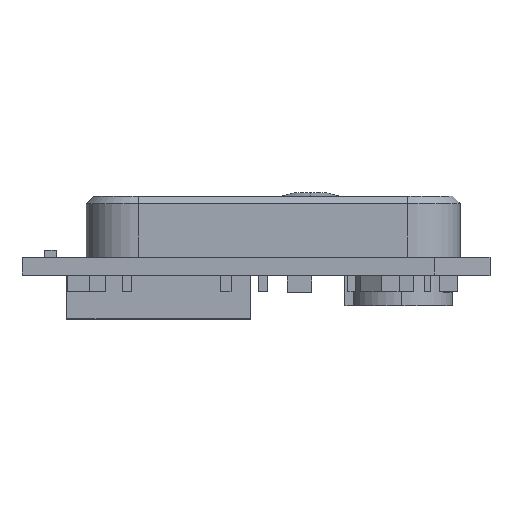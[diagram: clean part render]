
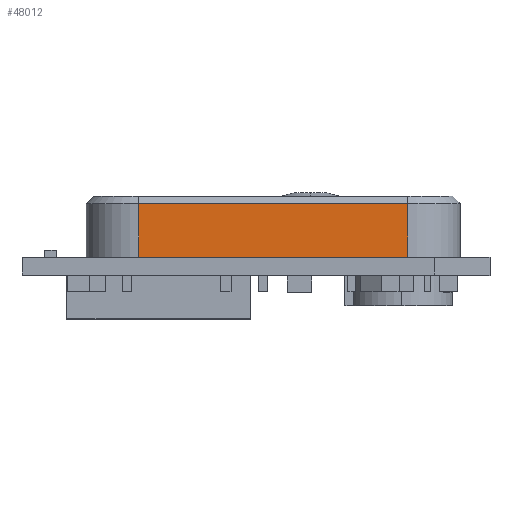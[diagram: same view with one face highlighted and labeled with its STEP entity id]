
A CAD part, top view. The second image highlights one B-rep face of the part: STEP entity #48012.
In plain terms, the highlighted planar face has unit normal (0, 0, 1).
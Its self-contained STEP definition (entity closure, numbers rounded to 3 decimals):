
#1761 = EDGE_CURVE ( 'NONE', #53485, #23304, #22930, .T. ) ;
#1854 = CARTESIAN_POINT ( 'NONE',  ( 10.15, 4.8, 11.75 ) ) ;
#7145 = VERTEX_POINT ( 'NONE', #24147 ) ;
#7311 = DIRECTION ( 'NONE',  ( 0., 0., -1. ) ) ;
#12696 = LINE ( 'NONE', #47879, #22702 ) ;
#15595 = VECTOR ( 'NONE', #45033, 1000. ) ;
#16571 = CARTESIAN_POINT ( 'NONE',  ( -7.85, 1.2, 11.75 ) ) ;
#16607 = CARTESIAN_POINT ( 'NONE',  ( 10.15, 5.3, 11.75 ) ) ;
#17382 = VERTEX_POINT ( 'NONE', #1854 ) ;
#20914 = DIRECTION ( 'NONE',  ( 0., -1., 0. ) ) ;
#22534 = DIRECTION ( 'NONE',  ( 0., -1., 0. ) ) ;
#22702 = VECTOR ( 'NONE', #22534, 1000. ) ;
#22930 = LINE ( 'NONE', #16571, #46979 ) ;
#23304 = VERTEX_POINT ( 'NONE', #49014 ) ;
#23595 = CARTESIAN_POINT ( 'NONE',  ( -7.85, 4.8, 11.75 ) ) ;
#24147 = CARTESIAN_POINT ( 'NONE',  ( -7.85, 4.8, 11.75 ) ) ;
#26000 = LINE ( 'NONE', #16607, #35912 ) ;
#27944 = EDGE_CURVE ( 'NONE', #17382, #23304, #26000, .T. ) ;
#28424 = CARTESIAN_POINT ( 'NONE',  ( -7.85, 5.3, 11.75 ) ) ;
#31656 = CARTESIAN_POINT ( 'NONE',  ( -7.85, 1.2, 11.75 ) ) ;
#33986 = AXIS2_PLACEMENT_3D ( 'NONE', #28424, #7311, #37129 ) ;
#34674 = ORIENTED_EDGE ( 'NONE', *, *, #27944, .F. ) ;
#35912 = VECTOR ( 'NONE', #20914, 1000. ) ;
#35965 = EDGE_LOOP ( 'NONE', ( #34674, #36035, #50942, #48470 ) ) ;
#36035 = ORIENTED_EDGE ( 'NONE', *, *, #49068, .T. ) ;
#37129 = DIRECTION ( 'NONE',  ( -1., 0., 0. ) ) ;
#41075 = PLANE ( 'NONE',  #33986 ) ;
#45033 = DIRECTION ( 'NONE',  ( -1., 0., 0. ) ) ;
#45727 = FACE_OUTER_BOUND ( 'NONE', #35965, .T. ) ;
#46979 = VECTOR ( 'NONE', #50718, 1000. ) ;
#47879 = CARTESIAN_POINT ( 'NONE',  ( -7.85, 5.3, 11.75 ) ) ;
#48012 = ADVANCED_FACE ( 'NONE', ( #45727 ), #41075, .F. ) ;
#48470 = ORIENTED_EDGE ( 'NONE', *, *, #1761, .T. ) ;
#49014 = CARTESIAN_POINT ( 'NONE',  ( 10.15, 1.2, 11.75 ) ) ;
#49068 = EDGE_CURVE ( 'NONE', #17382, #7145, #49639, .T. ) ;
#49639 = LINE ( 'NONE', #23595, #15595 ) ;
#50718 = DIRECTION ( 'NONE',  ( 1., 0., 0. ) ) ;
#50942 = ORIENTED_EDGE ( 'NONE', *, *, #52381, .T. ) ;
#52381 = EDGE_CURVE ( 'NONE', #7145, #53485, #12696, .T. ) ;
#53485 = VERTEX_POINT ( 'NONE', #31656 ) ;
